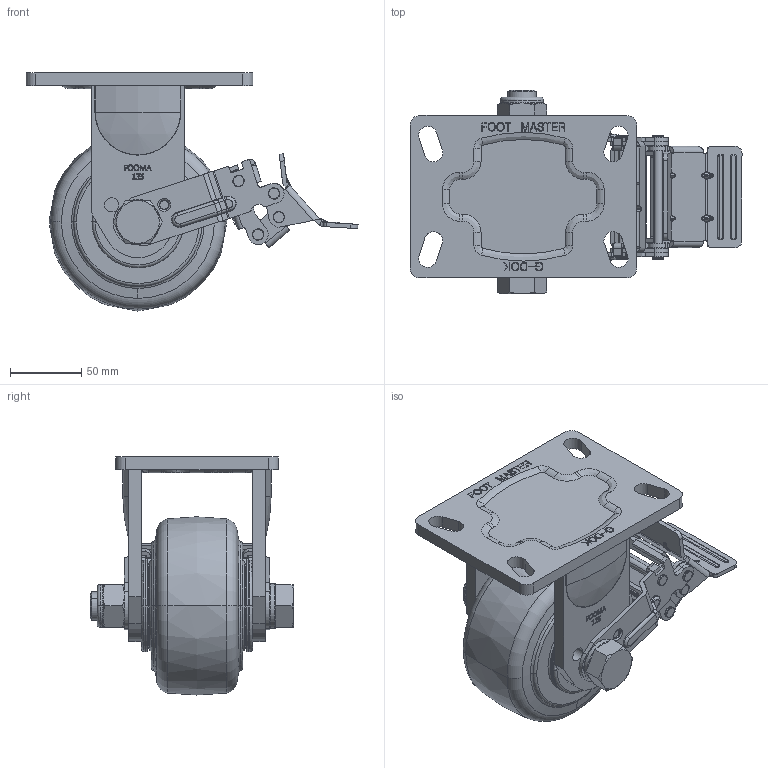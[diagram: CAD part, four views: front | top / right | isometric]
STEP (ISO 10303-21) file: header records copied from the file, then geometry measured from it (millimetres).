
FILE_DESCRIPTION((''),'2;1');
FILE_NAME('GF-125B-RF-MUD.stp','2012-06-07T19:58:44',(''),(''),'Mechanical Desktop 2009','Mechanical Desktop 2009',', , ');
FILE_SCHEMA(('CONFIG_CONTROL_DESIGN'));
Length unit declared in the file: millimetre
Products named in the file (2): GF-125B-RF-MUD; GF-RF-PLATE
Assembly tree (1 placements, depth 2):
  GF-125B-RF-MUD
    GF-RF-PLATE
Bounding box: 232.9 x 143 x 167 mm (x, y, z)
Volume: 1137669.6 mm3; surface area: 184010.6 mm2
Topology: 7 solids, 7 shells, 1964 faces, 5314 edges, 3372 vertices
Faces by surface type: bspline 711, plane 624, cylinder 491, torus 88, cone 46, sphere 4
Entity records: 73900 total; most frequent: CARTESIAN_POINT 27003, ORIENTED_EDGE 10568, DIRECTION 8768, EDGE_CURVE 5284, VERTEX_POINT 3372, AXIS2_PLACEMENT_3D 3161, VECTOR 2446, LINE 2446
